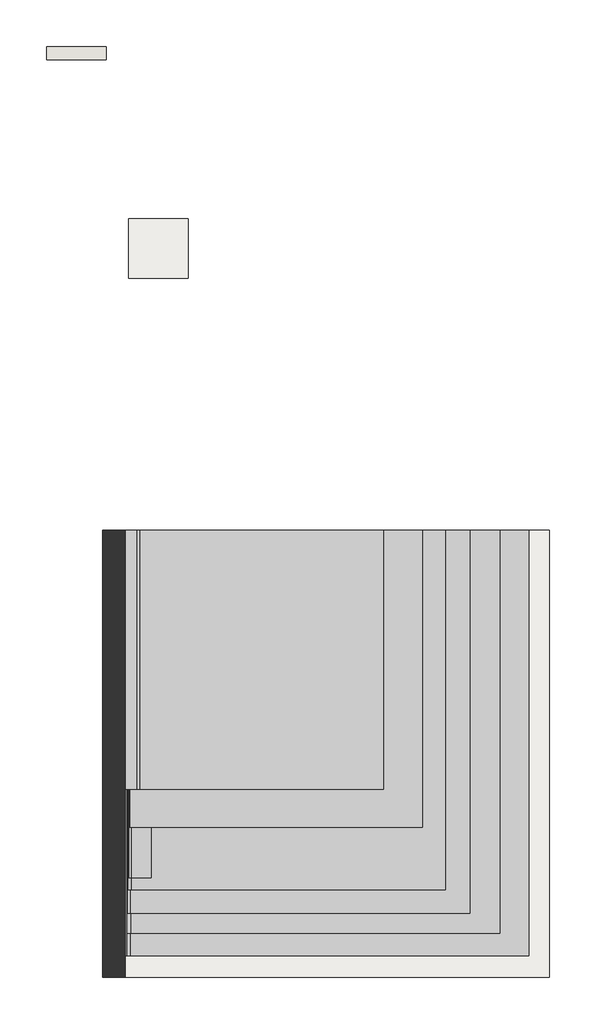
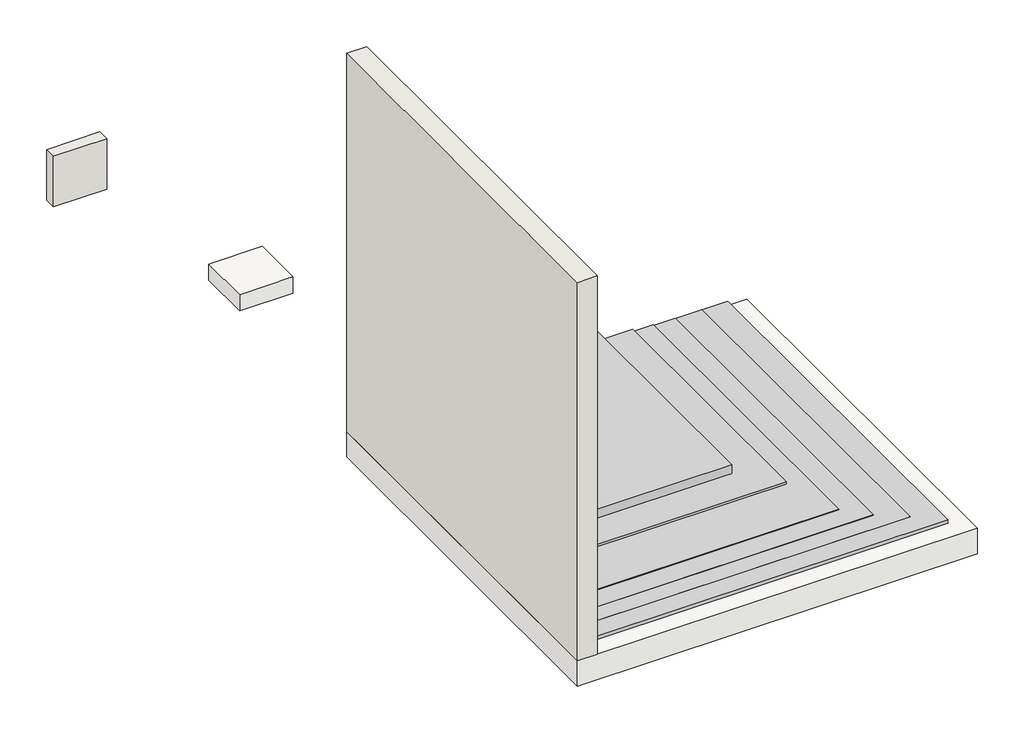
# One storey: 2 slabs, 2 walls, 1 proxy.
"""IFC4 building model written with IfcOpenShell, lengths in millimetres."""

from ifc_helpers import new_model, si_unit, frame, origin, place, context, project, spatial, polyline, outline, extrude, transform, mapped, element, save
from components import generic_models_9ae79c3e

model = new_model("IFC4")

# Units and contexts
model_context = context("Model", 3, world=origin())
ifc_project = project(units=[si_unit("LENGTHUNIT", "METRE", prefix="MILLI")], contexts=[model_context])

# Site, building, storey
site = spatial("IfcSite", under=ifc_project)
building = spatial("IfcBuilding", under=site)
storey = spatial("IfcBuildingStorey", under=building, Name="ARQ Térreo", Elevation=-2.523798)

# Proxy
placement = place(None, origin())
generic_models_shape = generic_models_9ae79c3e(model_context)
element("IfcBuildingElementProxy", 1, Name="IMPER:IMPER:433934 : IMPER:IMPER:433934", ObjectType="IMPER:IMPER:433934 : IMPER:IMPER:433934", at=placement, inside=storey, context=model_context, shape_type="MappedRepresentation", body=[
    mapped(generic_models_shape, transform((0.0, 0.0, 0.0), x_axis=(1.0, 0.0, 0.0), y_axis=(0.0, 1.0, 0.0), z_axis=(0.0, 0.0, 1.0))),
])

# Slabs
element("IfcSlab", 2, ObjectType="IMPH_T4PP+T4PP", at=placement, inside=storey, context=model_context, shape_type="SweptSolid", body=[
    extrude(outline(polyline([(-328.4452766, 2236.1124325), (71.5547234, 2236.1124325), (71.5547234, 1836.1124325), (-328.4452766, 1836.1124325), (-328.4452766, 2236.1124325)])), frame((0.0, 0.0, -131.523798), z_axis=(0.0, 0.0, 1.0), x_axis=(1.0, 0.0, 0.0)), (0.0, 0.0, 1.0), 129.0),
])
element("IfcSlab", 3, ObjectType="Piso:LAJE CONCRETO", at=placement, inside=storey, context=model_context, shape_type="SweptSolid", body=[
    extrude(outline(polyline([(-501.9704105, 145.8700195), (2498.0295895, 145.8700195), (2498.0295895, -2854.1299805), (-501.9704105, -2854.1299805), (-501.9704105, 145.8700195)])), frame((0.0, 0.0, -202.523798), z_axis=(0.0, 0.0, 1.0), x_axis=(1.0, 0.0, 0.0)), (0.0, 0.0, 1.0), 200.0),
])

# Walls
element("IfcWall", 4, ObjectType="Parede básica:Parede Concreto", at=placement, inside=storey, context=model_context, shape_type="SweptSolid", body=[
    extrude(outline(polyline([(-501.9704105, -2854.1299805), (-501.9704105, 145.8700195), (-351.9704105, 145.8700195), (-351.9704105, -2854.1299805), (-501.9704105, -2854.1299805)])), frame((0.0, 0.0, -2.523798), z_axis=(0.0, 0.0, 1.0), x_axis=(1.0, 0.0, 0.0)), (0.0, 0.0, 1.0), 3000.0),
])
element("IfcWall", 5, ObjectType="IMPV_T4PP+T4PP", at=placement, inside=storey, context=model_context, shape_type="SweptSolid", body=[
    extrude(outline(polyline([(-878.4579685, 3390.3700195), (-478.4579685, 3390.3700195), (-478.4579685, 3301.3700195), (-878.4579685, 3301.3700195), (-878.4579685, 3390.3700195)])), frame((0.0, 0.0, -2.523798), z_axis=(0.0, 0.0, 1.0), x_axis=(1.0, 0.0, 0.0)), (0.0, 0.0, 1.0), 400.0),
])

save(model, "model.ifc")
